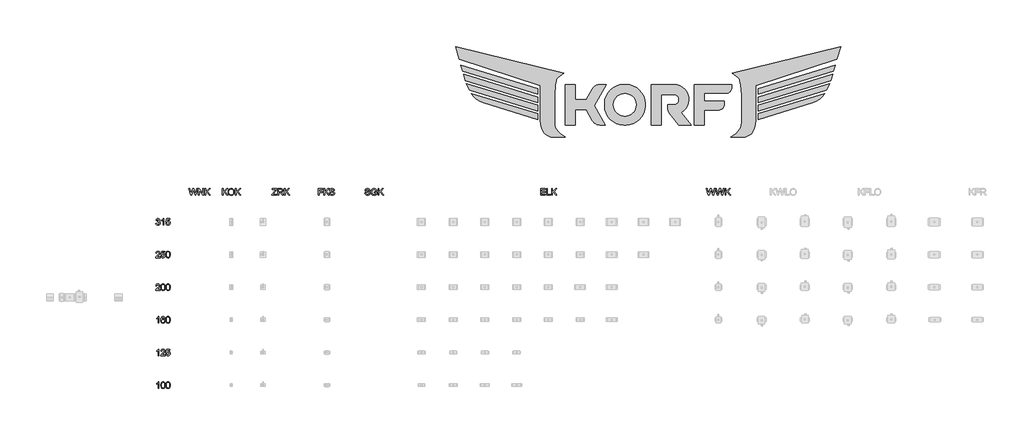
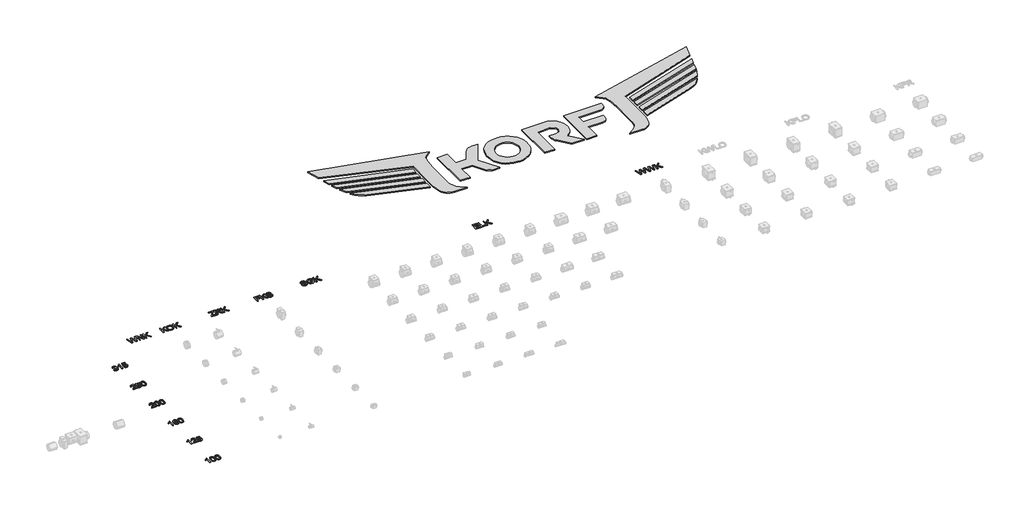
# One storey, part 8 of 9: 14 proxies.
"""IFC4 building model written with IfcOpenShell, lengths in millimetres."""

from ifc_helpers import new_model, si_unit, origin, origin_with_axes, place, context, project, spatial, polyline, outline, extrude, transform, mapped, element, save
from components import entourage_f634e647

model = new_model("IFC4")

# Units and contexts
model_context = context("Model", 3, world=origin())
ifc_project = project(units=[si_unit("LENGTHUNIT", "METRE", prefix="MILLI")], contexts=[model_context])

# Site, building, storey
site = spatial("IfcSite", under=ifc_project)
building = spatial("IfcBuilding", under=site)
storey = spatial("IfcBuildingStorey", under=building, Name="KORF_Уровень 1", Elevation=0.0)

# Proxies
placement = place(None, origin())
element("IfcBuildingElementProxy", 1, Name="Текст модели 1", ObjectType="Текст модели 1", at=placement, inside=storey, context=model_context, shape_type="SweptSolid", body=[
    extrude(outline(polyline([(-9869.6329578, 9570.718814), (-9951.8177955, 9872.0877444), (-9912.9694568, 9872.0877444), (-9865.2919502, 9674.0200782), (-9850.5766704, 9612.8780906), (-9834.831321, 9666.9567439), (-9775.087285, 9872.0877444), (-9719.0956454, 9872.0877444), (-9675.6855699, 9723.389842), (-9657.0891351, 9668.2075427), (-9643.3855307, 9612.8780906), (-9629.1117093, 9672.2542447), (-9580.9927444, 9872.0877444), (-9542.1444057, 9872.0877444), (-9624.4028198, 9570.718814), (-9664.6491101, 9570.718814), (-9736.9011339, 9803.2202349), (-9746.9811006, 9835.6674269), (-9758.311866, 9796.598359), (-9824.1627432, 9570.718814), (-9869.6329578, 9570.718814)])), origin_with_axes(), (0.0, 0.0, 1.0), 30.0),
    extrude(outline(polyline([(-9504.4732894, 9570.718814), (-9504.4732894, 9872.0877444), (-9464.1534227, 9872.0877444), (-9306.6999288, 9633.3323296), (-9306.6999288, 9872.0877444), (-9269.0288125, 9872.0877444), (-9269.0288125, 9570.718814), (-9309.3486791, 9570.718814), (-9466.8021731, 9809.5478053), (-9466.8021731, 9570.718814), (-9504.4732894, 9570.718814)])), origin_with_axes(), (0.0, 0.0, 1.0), 30.0),
    extrude(outline(polyline([(-9203.1043589, 9570.718814), (-9203.1043589, 9872.0877444), (-9165.4332426, 9872.0877444), (-9165.4332426, 9724.5670644), (-9010.9228046, 9872.0877444), (-8958.2421029, 9872.0877444), (-9087.9572944, 9748.1850885), (-8953.5332134, 9570.718814), (-8999.5920392, 9570.718814), (-9114.6655273, 9722.7276544), (-9165.4332426, 9674.3143838), (-9165.4332426, 9570.718814), (-9203.1043589, 9570.718814)])), origin_with_axes(), (0.0, 0.0, 1.0), 30.0),
])
element("IfcBuildingElementProxy", 2, Name="Текст модели 1", ObjectType="Текст модели 1", at=placement, inside=storey, context=model_context, shape_type="SweptSolid", body=[
    extrude(outline(polyline([(-8395.6509541, 9570.718814), (-8395.6509541, 9872.0877444), (-8357.9798378, 9872.0877444), (-8357.9798378, 9724.5670644), (-8203.4693998, 9872.0877444), (-8150.7886981, 9872.0877444), (-8280.5038896, 9748.1850885), (-8146.0798086, 9570.718814), (-8192.1386343, 9570.718814), (-8307.2121224, 9722.7276544), (-8357.9798378, 9674.3143838), (-8357.9798378, 9570.718814), (-8395.6509541, 9570.718814)])), origin_with_axes(), (0.0, 0.0, 1.0), 30.0),
    extrude(outline(polyline([(-8131.9531399, 9717.4301537), (-8129.4423453, 9752.7790149), (-8121.9099615, 9784.0719771), (-8109.3559884, 9811.3090403), (-8091.7804261, 9834.4902045), (-8070.2363367, 9852.9992674), (-8045.7767826, 9866.2200266), (-8018.4017636, 9874.1524821), (-7988.1112798, 9876.796634), (-7948.5823594, 9871.830227), (-7913.1369292, 9856.9310062), (-7883.7063696, 9833.1474352), (-7862.2220611, 9801.5279778), (-7849.0886738, 9763.5993441), (-7844.7108781, 9720.8882444), (-7849.3186001, 9677.6069277), (-7863.1417661, 9639.1448651), (-7885.4170209, 9607.4702253), (-7915.3810094, 9584.551177), (-7950.522937, 9570.6452376), (-7988.332009, 9566.0099244), (-8028.4679347, 9571.1326812), (-8064.1157, 9586.5009516), (-8093.4726832, 9610.725981), (-8114.7362626, 9642.4190148), (-8127.6489206, 9678.8853176), (-8131.9531399, 9717.4301537)]), holes=[polyline([(-8094.2820236, 9717.0622717), (-8092.3989277, 9692.0876827), (-8086.7496398, 9669.918194), (-8077.33416, 9650.5538055), (-8064.1524882, 9633.9945172), (-8048.1289281, 9620.7323712), (-8030.187783, 9611.2594099), (-8010.3290531, 9605.575633), (-7988.5527382, 9603.6810408), (-7966.4039428, 9605.5940271), (-7946.3106881, 9611.3329863), (-7928.272974, 9620.8979181), (-7912.2908006, 9634.2888228), (-7899.2056979, 9651.197599), (-7889.859196, 9671.3161456), (-7884.2512948, 9694.6444626), (-7882.3819944, 9721.18255), (-7885.5825678, 9754.5310529), (-7895.1842878, 9783.3546072), (-7910.9388343, 9806.926646), (-7932.5978867, 9824.5206025), (-7958.7267055, 9835.4742889), (-7987.8905506, 9839.1255177), (-8008.9104081, 9837.3665819), (-8028.4127524, 9832.0897745), (-8046.3975834, 9823.2950956), (-8062.8649012, 9810.982545), (-8076.6098923, 9794.5589132), (-8086.427743, 9773.4309904), (-8092.3184535, 9747.5987765), (-8094.2820236, 9717.0622717)])]), origin_with_axes(), (0.0, 0.0, 1.0), 30.0),
    extrude(outline(polyline([(-7792.9130932, 9570.718814), (-7792.9130932, 9872.0877444), (-7755.2419769, 9872.0877444), (-7755.2419769, 9724.5670644), (-7600.7315389, 9872.0877444), (-7548.0508372, 9872.0877444), (-7677.7660287, 9748.1850885), (-7543.3419477, 9570.718814), (-7589.4007734, 9570.718814), (-7704.4742615, 9722.7276544), (-7755.2419769, 9674.3143838), (-7755.2419769, 9570.718814), (-7792.9130932, 9570.718814)])), origin_with_axes(), (0.0, 0.0, 1.0), 30.0),
])
element("IfcBuildingElementProxy", 3, Name="Текст модели 1", ObjectType="Текст модели 1", at=placement, inside=storey, context=model_context, shape_type="SweptSolid", body=[
    extrude(outline(polyline([(-6112.1795272, 9570.718814), (-6112.1795272, 9609.7878819), (-5958.0369712, 9798.5113454), (-5928.7535644, 9834.4166281), (-6093.3439691, 9834.4166281), (-6093.3439691, 9872.0877444), (-5881.4439398, 9872.0877444), (-5881.4439398, 9834.4166281), (-6050.1546228, 9627.887676), (-6066.047125, 9608.3899303), (-5876.7350503, 9608.3899303), (-5876.7350503, 9570.718814), (-6112.1795272, 9570.718814)])), origin_with_axes(), (0.0, 0.0, 1.0), 30.0),
    extrude(outline(polyline([(-5834.3550445, 9570.718814), (-5834.3550445, 9872.0877444), (-5704.4927002, 9872.0877444), (-5669.5898959, 9870.0551964), (-5644.1968412, 9863.9575523), (-5625.6371945, 9852.7003633), (-5611.2346144, 9835.1891803), (-5601.9915793, 9813.4749456), (-5598.9105675, 9789.6086011), (-5604.0149302, 9759.9205241), (-5619.3280183, 9735.3092186), (-5630.9277974, 9725.2798357), (-5645.3096842, 9717.2646068), (-5682.4197805, 9707.2766106), (-5661.0090483, 9691.1633792), (-5630.4748427, 9652.3886169), (-5580.2221622, 9570.718814), (-5624.0001196, 9570.718814), (-5663.2163403, 9633.1851768), (-5691.5432539, 9674.535113), (-5711.4456699, 9694.069647), (-5729.361523, 9701.2433459), (-5751.2137136, 9702.5677211), (-5796.6839282, 9702.5677211), (-5796.6839282, 9570.718814), (-5834.3550445, 9570.718814)]), holes=[polyline([(-5796.6839282, 9740.2388374), (-5712.3653749, 9740.2388374), (-5688.1495425, 9741.5724096), (-5669.3599696, 9745.5731263), (-5655.2149069, 9752.5077019), (-5644.9326051, 9762.6428509), (-5638.6694142, 9774.9025184), (-5636.5816839, 9788.2106495), (-5640.5640065, 9806.5863552), (-5652.5109742, 9821.3936055), (-5673.0663807, 9831.1608725), (-5702.8740194, 9834.4166281), (-5796.6839282, 9834.4166281), (-5796.6839282, 9740.2388374)])]), origin_with_axes(), (0.0, 0.0, 1.0), 30.0),
    extrude(outline(polyline([(-5532.986114, 9570.718814), (-5532.986114, 9872.0877444), (-5495.3149977, 9872.0877444), (-5495.3149977, 9724.5670644), (-5340.8045597, 9872.0877444), (-5288.123858, 9872.0877444), (-5417.8390495, 9748.1850885), (-5283.4149685, 9570.718814), (-5329.4737943, 9570.718814), (-5444.5472824, 9722.7276544), (-5495.3149977, 9674.3143838), (-5495.3149977, 9570.718814), (-5532.986114, 9570.718814)])), origin_with_axes(), (0.0, 0.0, 1.0), 30.0),
])
element("IfcBuildingElementProxy", 4, Name="Текст модели 1", ObjectType="Текст модели 1", at=placement, inside=storey, context=model_context, shape_type="SweptSolid", body=[
    extrude(outline(polyline([(-3953.1771276, 9570.718814), (-3953.1771276, 9872.0877444), (-3750.6948775, 9872.0877444), (-3750.6948775, 9834.4166281), (-3915.5060113, 9834.4166281), (-3915.5060113, 9744.9477269), (-3774.2393252, 9744.9477269), (-3774.2393252, 9707.2766106), (-3915.5060113, 9707.2766106), (-3915.5060113, 9570.718814), (-3953.1771276, 9570.718814)])), origin_with_axes(), (0.0, 0.0, 1.0), 30.0),
    extrude(outline(polyline([(-3698.8970926, 9570.718814), (-3698.8970926, 9872.0877444), (-3661.2259763, 9872.0877444), (-3661.2259763, 9724.5670644), (-3506.7155383, 9872.0877444), (-3454.0348366, 9872.0877444), (-3583.7500281, 9748.1850885), (-3449.325947, 9570.718814), (-3495.3847728, 9570.718814), (-3610.4582609, 9722.7276544), (-3661.2259763, 9674.3143838), (-3661.2259763, 9570.718814), (-3698.8970926, 9570.718814)])), origin_with_axes(), (0.0, 0.0, 1.0), 30.0),
    extrude(outline(polyline([(-3435.1992784, 9674.3143838), (-3397.5281621, 9674.3143838), (-3393.2055487, 9653.4094895), (-3385.3880563, 9636.6064793), (-3373.1927681, 9623.270757), (-3355.7367675, 9612.767726), (-3334.3996118, 9605.9527121), (-3310.5608585, 9603.6810408), (-3289.5731906, 9605.4008891), (-3271.197485, 9610.5604341), (-3256.3074612, 9618.7274144), (-3245.7768391, 9629.4695686), (-3239.5136481, 9641.8028125), (-3237.4259178, 9654.7430617), (-3238.9894163, 9667.3522171), (-3243.6799117, 9678.2507212), (-3253.2080554, 9687.5489386), (-3269.2844986, 9695.357234), (-3324.1357041, 9709.74142), (-3360.1421544, 9719.2603666), (-3383.1807643, 9728.3194607), (-3401.933549, 9740.9929955), (-3415.2232861, 9756.3520688), (-3423.141946, 9774.0655868), (-3425.7814994, 9793.8024559), (-3422.5165466, 9815.8661785), (-3412.7216885, 9836.4399791), (-3396.6544424, 9853.8775857), (-3374.5723256, 9866.5327263), (-3348.0664279, 9874.2306571), (-3318.7278388, 9876.796634), (-3286.9428344, 9874.1110954), (-3259.1309555, 9866.0544797), (-3236.2854836, 9852.7923338), (-3219.3997001, 9834.4902045), (-3208.7127281, 9812.2885261), (-3204.4636911, 9787.3277327), (-3242.1348074, 9787.3277327), (-3249.0509889, 9809.8053227), (-3263.4719631, 9826.0289186), (-3286.0047353, 9835.8513679), (-3317.2563108, 9839.1255177), (-3349.2436503, 9835.8881561), (-3371.1878113, 9826.1760714), (-3383.8797401, 9811.8838559), (-3388.110383, 9794.9061018), (-3385.1121448, 9780.4299453), (-3376.11743, 9768.7864802), (-3354.8538507, 9758.3754197), (-3314.6075604, 9747.7436301), (-3273.0736832, 9737.6452693), (-3247.9473429, 9728.8344955), (-3226.4722314, 9715.1676794), (-3211.4902372, 9698.3002899), (-3202.6886604, 9678.4162681), (-3199.7548015, 9655.6995549), (-3203.1301188, 9632.4770039), (-3213.2560707, 9610.6340105), (-3229.71879, 9591.8352405), (-3252.1044094, 9577.7453601), (-3279.0241744, 9568.9437834), (-3309.0893305, 9566.0099244), (-3345.9970917, 9569.1737096), (-3376.3749474, 9578.6650651), (-3400.5723856, 9594.5207791), (-3418.9388942, 9616.7776398), (-3430.7295122, 9643.8905428), (-3435.1992784, 9674.3143838)])), origin_with_axes(), (0.0, 0.0, 1.0), 30.0),
])
element("IfcBuildingElementProxy", 5, Name="Текст модели 1", ObjectType="Текст модели 1", at=placement, inside=storey, context=model_context, shape_type="SweptSolid", body=[
    extrude(outline(polyline([(-1799.0418903, 9674.3143838), (-1761.370774, 9674.3143838), (-1757.0481606, 9653.4094895), (-1749.2306682, 9636.6064793), (-1737.0353801, 9623.270757), (-1719.5793794, 9612.767726), (-1698.2422237, 9605.9527121), (-1674.4034704, 9603.6810408), (-1653.4158026, 9605.4008891), (-1635.0400969, 9610.5604341), (-1620.1500731, 9618.7274144), (-1609.619451, 9629.4695686), (-1603.3562601, 9641.8028125), (-1601.2685297, 9654.7430617), (-1602.8320282, 9667.3522171), (-1607.5225237, 9678.2507212), (-1617.0506673, 9687.5489386), (-1633.1271105, 9695.357234), (-1687.978316, 9709.74142), (-1723.9847663, 9719.2603666), (-1747.0233762, 9728.3194607), (-1765.7761609, 9740.9929955), (-1779.065898, 9756.3520688), (-1786.9845579, 9774.0655868), (-1789.6241113, 9793.8024559), (-1786.3591586, 9815.8661785), (-1776.5643004, 9836.4399791), (-1760.4970543, 9853.8775857), (-1738.4149375, 9866.5327263), (-1711.9090398, 9874.2306571), (-1682.5704507, 9876.796634), (-1650.7854463, 9874.1110954), (-1622.9735674, 9866.0544797), (-1600.1280955, 9852.7923338), (-1583.242312, 9834.4902045), (-1572.55534, 9812.2885261), (-1568.306303, 9787.3277327), (-1605.9774193, 9787.3277327), (-1612.8936008, 9809.8053227), (-1627.314575, 9826.0289186), (-1649.8473472, 9835.8513679), (-1681.0989227, 9839.1255177), (-1713.0862622, 9835.8881561), (-1735.0304232, 9826.1760714), (-1747.722352, 9811.8838559), (-1751.952995, 9794.9061018), (-1748.9547567, 9780.4299453), (-1739.9600419, 9768.7864802), (-1718.6964626, 9758.3754197), (-1678.4501723, 9747.7436301), (-1636.9162951, 9737.6452693), (-1611.7899548, 9728.8344955), (-1590.3148433, 9715.1676794), (-1575.3328491, 9698.3002899), (-1566.5312723, 9678.4162681), (-1563.5974134, 9655.6995549), (-1566.9727307, 9632.4770039), (-1577.0986827, 9610.6340105), (-1593.5614019, 9591.8352405), (-1615.9470213, 9577.7453601), (-1642.8667863, 9568.9437834), (-1672.9319424, 9566.0099244), (-1709.8397036, 9569.1737096), (-1740.2175593, 9578.6650651), (-1764.4149975, 9594.5207791), (-1782.7815062, 9616.7776398), (-1794.5721241, 9643.8905428), (-1799.0418903, 9674.3143838)])), origin_with_axes(), (0.0, 0.0, 1.0), 30.0),
    extrude(outline(polyline([(-1365.8240528, 9688.4410524), (-1365.8240528, 9726.1121688), (-1243.3929248, 9726.1121688), (-1243.3929248, 9613.4667018), (-1273.1453812, 9592.7733396), (-1303.8359366, 9577.9293011), (-1335.3910148, 9568.9897686), (-1367.7370392, 9566.0099244), (-1409.9974834, 9570.7464051), (-1448.1928315, 9584.9558472), (-1479.9226536, 9608.1416099), (-1502.7865196, 9639.8070527), (-1516.6096856, 9677.7908687), (-1521.2174076, 9719.9317512), (-1516.6280797, 9762.3761364), (-1502.860096, 9801.8590716), (-1480.4836737, 9834.9776482), (-1450.0690297, 9858.3289578), (-1413.0233128, 9872.1797149), (-1370.7536716, 9876.796634), (-1339.7228253, 9874.1202925), (-1311.8189759, 9866.0912679), (-1288.3205135, 9853.2889745), (-1270.5058279, 9836.2928263), (-1257.3264554, 9814.2842859), (-1247.7339324, 9786.444816), (-1282.4619927, 9776.6591549), (-1290.2151058, 9796.5155856), (-1299.6420819, 9811.4975798), (-1312.1132815, 9822.7915571), (-1328.9990651, 9831.5839368), (-1349.1314073, 9837.2401224), (-1371.3422827, 9839.1255177), (-1397.3423428, 9837.0929696), (-1419.5716123, 9830.9953256), (-1437.947318, 9821.5959406), (-1452.3866863, 9809.6581699), (-1471.7740674, 9780.6322804), (-1480.6032353, 9752.1950022), (-1483.5462913, 9721.4768556), (-1480.0054271, 9685.4520112), (-1469.3828345, 9655.8099195), (-1452.0004102, 9632.7621125), (-1428.180051, 9616.5201224), (-1400.3037928, 9606.8908112), (-1370.7536716, 9603.6810408), (-1344.661641, 9606.0998649), (-1319.213404, 9613.3563372), (-1297.1128932, 9623.3535304), (-1281.0640411, 9633.9945172), (-1281.0640411, 9688.4410524), (-1365.8240528, 9688.4410524)])), origin_with_axes(), (0.0, 0.0, 1.0), 30.0),
    extrude(outline(polyline([(-1182.1773608, 9570.718814), (-1182.1773608, 9872.0877444), (-1144.5062445, 9872.0877444), (-1144.5062445, 9724.5670644), (-989.9958065, 9872.0877444), (-937.3151048, 9872.0877444), (-1067.0302963, 9748.1850885), (-932.6062153, 9570.718814), (-978.6650411, 9570.718814), (-1093.7385292, 9722.7276544), (-1144.5062445, 9674.3143838), (-1144.5062445, 9570.718814), (-1182.1773608, 9570.718814)])), origin_with_axes(), (0.0, 0.0, 1.0), 30.0),
])
element("IfcBuildingElementProxy", 6, Name="Текст модели 1", ObjectType="Текст модели 1", at=placement, inside=storey, context=model_context, shape_type="SweptSolid", body=[
    extrude(outline(polyline([(-11474.9244983, 8265.4424699), (-11437.253382, 8270.1513595), (-11428.8196873, 8246.4781531), (-11416.4680493, 8230.4936804), (-11399.5914628, 8221.388601), (-11377.5829224, 8218.3535746), (-11351.7576063, 8222.5290352), (-11331.8184022, 8235.0554171), (-11319.0712911, 8253.7438225), (-11314.822254, 8276.4053534), (-11319.0345029, 8297.9172531), (-11331.6712494, 8315.3640567), (-11350.8011131, 8326.9247484), (-11374.4927136, 8330.7783123), (-11400.9066409, 8326.6580339), (-11396.7127861, 8364.3291502), (-11390.6795214, 8363.8876918), (-11368.109961, 8366.5916245), (-11347.9316336, 8374.7034225), (-11333.6946004, 8388.4254209), (-11328.9489226, 8407.9599549), (-11332.3886193, 8424.2295361), (-11342.7077092, 8437.4273027), (-11358.4530586, 8446.1736971), (-11378.1715336, 8449.0891619), (-11397.9267967, 8446.146106), (-11414.0768163, 8437.3169381), (-11425.8674343, 8422.6016583), (-11432.5444925, 8402.0002665), (-11470.2156088, 8406.7091561), (-11459.1239666, 8440.5359055), (-11439.3870976, 8465.7910045), (-11412.3845591, 8481.5179598), (-11379.4959088, 8486.7602782), (-11355.8135053, 8484.1759072), (-11334.0624824, 8476.4227942), (-11315.7235649, 8464.1907178), (-11302.277478, 8448.1694569), (-11294.0277242, 8429.7109778), (-11291.2778063, 8410.1672468), (-11293.8897685, 8391.9570881), (-11301.725655, 8375.4391865), (-11314.6751012, 8361.3677002), (-11332.6277426, 8350.4967872), (-11309.0465067, 8340.9686435), (-11291.5721119, 8324.7450476), (-11280.7563813, 8302.708916), (-11277.1511377, 8275.7431658), (-11278.9537595, 8256.6316961), (-11284.3616248, 8239.0285427), (-11293.3747337, 8222.9337054), (-11305.9930861, 8208.3471843), (-11321.365955, 8196.2438666), (-11338.6426132, 8187.5986398), (-11357.8230607, 8182.4115036), (-11378.9072976, 8180.6824582), (-11397.9635849, 8182.1585848), (-11415.3276151, 8186.5869643), (-11430.9993881, 8193.9675968), (-11444.9789039, 8204.3004823), (-11456.700544, 8216.9786156), (-11465.5986897, 8231.3949913), (-11471.6733412, 8247.5496094), (-11474.9244983, 8265.4424699)])), origin_with_axes(), (0.0, 0.0, 1.0), 30.0),
    extrude(outline(polyline([(-11102.9222248, 8185.3913478), (-11140.5933411, 8185.3913478), (-11140.5933411, 8420.2472135), (-11176.2778946, 8394.8265676), (-11215.9355737, 8375.8070685), (-11215.9355737, 8411.4180456), (-11186.3486642, 8427.5128829), (-11160.7164862, 8446.6611408), (-11140.5105677, 8467.0234092), (-11127.2024365, 8486.7602782), (-11102.9222248, 8486.7602782), (-11102.9222248, 8185.3913478)])), origin_with_axes(), (0.0, 0.0, 1.0), 30.0),
    extrude(outline(polyline([(-11013.4533236, 8265.4424699), (-10975.7822073, 8270.1513595), (-10968.8660258, 8247.5358138), (-10956.7994963, 8231.339809), (-10939.6378012, 8221.6001332), (-10917.4361228, 8218.3535746), (-10890.4335844, 8222.869326), (-10870.2000746, 8236.4165805), (-10857.5633281, 8257.4318395), (-10853.3510793, 8284.3516045), (-10857.2966137, 8309.698674), (-10869.1332169, 8329.0860551), (-10888.9528593, 8341.3917078), (-10916.8475116, 8345.4935921), (-10935.1220497, 8343.8565172), (-10949.920103, 8338.9452926), (-10971.0733177, 8321.9491444), (-11008.744434, 8326.6580339), (-10975.7822073, 8482.0513887), (-10829.8066316, 8482.0513887), (-10829.8066316, 8444.3802724), (-10945.3215781, 8444.3802724), (-10961.4348094, 8361.3860943), (-10934.5242415, 8377.7200549), (-10906.3260866, 8383.1647084), (-10887.9802713, 8381.4770497), (-10871.1289767, 8376.4140738), (-10855.7722026, 8367.9757805), (-10841.9099492, 8356.1621699), (-10830.4343302, 8341.6952105), (-10822.2374595, 8325.2968705), (-10817.3193371, 8306.9671501), (-10815.679963, 8286.7060493), (-10821.584469, 8249.0349329), (-10828.9651015, 8232.2411199), (-10839.297987, 8216.8084702), (-10854.9513659, 8201.00334), (-10873.216707, 8189.7139612), (-10894.0940102, 8182.940334), (-10917.5832756, 8180.6824582), (-10954.5830073, 8186.4857967), (-10970.2616781, 8193.7399698), (-10984.0595522, 8203.8958121), (-10995.5397697, 8216.447486), (-11004.2654707, 8230.8891535), (-11013.4533236, 8265.4424699)])), origin_with_axes(), (0.0, 0.0, 1.0), 30.0),
])
element("IfcBuildingElementProxy", 7, Name="Текст модели 1", ObjectType="Текст модели 1", at=placement, inside=storey, context=model_context, shape_type="SweptSolid", body=[
    extrude(outline(polyline([(-11281.8600272, 6709.0816566), (-11281.8600272, 6671.4105403), (-11479.6333879, 6671.4105403), (-11475.5866859, 6697.3830091), (-11466.2976655, 6717.6808982), (-11452.7044258, 6737.371782), (-11433.0411332, 6757.9823708), (-11405.541954, 6781.0393748), (-11364.8909936, 6817.1469927), (-11340.5004173, 6843.8000432), (-11328.3051291, 6865.4315045), (-11324.2400331, 6886.4743547), (-11328.0752029, 6905.337504), (-11339.5807123, 6921.018474), (-11357.2666392, 6931.5858843), (-11379.6430616, 6935.1083544), (-11403.141524, 6931.6686578), (-11421.397668, 6921.3495678), (-11433.1790889, 6904.9604249), (-11437.253382, 6883.3105695), (-11474.9244983, 6888.019459), (-11465.7918278, 6924.4581707), (-11457.2454692, 6938.994108), (-11446.0457617, 6951.074433), (-11432.4502227, 6960.570387), (-11416.7163696, 6967.3532113), (-11378.8337212, 6972.7794707), (-11358.6438974, 6971.2711546), (-11340.6751612, 6966.746206), (-11324.9275126, 6959.2046251), (-11311.4009515, 6948.6464118), (-11300.5369363, 6935.8533155), (-11292.7769255, 6921.6070852), (-11288.120919, 6905.9077211), (-11286.5689168, 6888.755223), (-11288.2427799, 6870.7382023), (-11293.2643691, 6853.0338813), (-11302.1763104, 6835.0260576), (-11315.5212298, 6816.098529), (-11336.7940062, 6793.5013774), (-11369.4895185, 6764.4846851), (-11412.8260175, 6728.2483085), (-11429.8221657, 6709.0816566), (-11281.8600272, 6709.0816566)])), origin_with_axes(), (0.0, 0.0, 1.0), 30.0),
    extrude(outline(polyline([(-11244.1889109, 6751.4616624), (-11206.5177946, 6756.170552), (-11199.6016131, 6733.5550063), (-11187.5350837, 6717.3590015), (-11170.3733886, 6707.6193257), (-11148.1717102, 6704.3727671), (-11121.1691718, 6708.8885185), (-11100.935662, 6722.435773), (-11088.2989155, 6743.451032), (-11084.0866666, 6770.370797), (-11088.032201, 6795.7178665), (-11099.8688042, 6815.1052476), (-11119.6884467, 6827.4109003), (-11147.583099, 6831.5127846), (-11165.8576371, 6829.8757097), (-11180.6556904, 6824.9644851), (-11201.8089051, 6807.9683369), (-11239.4800214, 6812.6772264), (-11206.5177946, 6968.0705812), (-11060.5422189, 6968.0705812), (-11060.5422189, 6930.3994649), (-11176.0571654, 6930.3994649), (-11192.1703968, 6847.4052868), (-11165.2598289, 6863.7392474), (-11137.0616739, 6869.1839009), (-11118.7158587, 6867.4962422), (-11101.8645641, 6862.4332663), (-11086.50779, 6853.994973), (-11072.6455366, 6842.1813624), (-11061.1699176, 6827.714403), (-11052.9730469, 6811.316063), (-11048.0549245, 6792.9863426), (-11046.4155503, 6772.7252418), (-11052.3200564, 6735.0541254), (-11059.7006889, 6718.2603124), (-11070.0335744, 6702.8276627), (-11085.6869533, 6687.0225325), (-11103.9522944, 6675.7331537), (-11124.8295976, 6668.9595265), (-11148.318863, 6666.7016507), (-11185.3185947, 6672.5049892), (-11200.9972654, 6679.7591623), (-11214.7951395, 6689.9150046), (-11226.275357, 6702.4666785), (-11235.0010581, 6716.908346), (-11244.1889109, 6751.4616624)])), origin_with_axes(), (0.0, 0.0, 1.0), 30.0),
    extrude(outline(polyline([(-11013.4533236, 6819.6669843), (-11010.6850116, 6867.905511), (-11002.3800755, 6906.3767706), (-10988.6212889, 6935.6693745), (-10969.4914251, 6956.3719337), (-10944.8525285, 6968.6775865), (-10914.5666433, 6972.7794707), (-10891.3532894, 6970.3514496), (-10870.5679566, 6963.0673861), (-10853.1855324, 6951.2123888), (-10840.1809038, 6935.0715662), (-10830.3584546, 6914.7828742), (-10822.5225681, 6890.4842684), (-10817.3906142, 6859.6281661), (-10815.679963, 6819.6669843), (-10818.4206838, 6771.7043692), (-10826.6428464, 6733.3250801), (-10840.3188596, 6704.0048851), (-10859.4211322, 6683.2195523), (-10884.1152111, 6670.8311261), (-10914.5666433, 6666.7016507), (-10935.3151878, 6668.4950755), (-10953.7092875, 6673.8753497), (-10969.7489425, 6682.8424733), (-10983.4341528, 6695.3964464), (-10996.56754, 6718.0901669), (-11005.9485309, 6746.3664968), (-11011.5771254, 6780.2254359), (-11013.4533236, 6819.6669843)]), holes=[polyline([(-10975.7822073, 6819.7405607), (-10971.3676233, 6760.4839684), (-10965.8493934, 6740.2159697), (-10958.1238715, 6726.1881694), (-10938.4053966, 6709.8266176), (-10914.5666433, 6704.3727671), (-10890.72789, 6709.8450117), (-10871.009415, 6726.2617458), (-10863.2838931, 6740.3125387), (-10857.7656632, 6760.5759389), (-10853.3510793, 6819.7405607), (-10857.6185104, 6877.6635809), (-10862.9527993, 6897.8649009), (-10870.4208038, 6912.2260943), (-10890.1024906, 6929.3877894), (-10915.0081017, 6935.1083544), (-10938.5893375, 6930.0683711), (-10957.5352603, 6914.9484211), (-10965.5182996, 6899.3134363), (-10971.2204705, 6878.233798), (-10975.7822073, 6819.7405607)])]), origin_with_axes(), (0.0, 0.0, 1.0), 30.0),
])
element("IfcBuildingElementProxy", 8, Name="Текст модели 1", ObjectType="Текст модели 1", at=placement, inside=storey, context=model_context, shape_type="SweptSolid", body=[
    extrude(outline(polyline([(-11281.8600272, 5195.1008491), (-11281.8600272, 5157.4297328), (-11479.6333879, 5157.4297328), (-11475.5866859, 5183.4022016), (-11466.2976655, 5203.7000907), (-11452.7044258, 5223.3909745), (-11433.0411332, 5244.0015633), (-11405.541954, 5267.0585673), (-11364.8909936, 5303.1661852), (-11340.5004173, 5329.8192357), (-11328.3051291, 5351.450697), (-11324.2400331, 5372.4935472), (-11328.0752029, 5391.3566965), (-11339.5807123, 5407.0376665), (-11357.2666392, 5417.6050768), (-11379.6430616, 5421.1275469), (-11403.141524, 5417.6878503), (-11421.397668, 5407.3687603), (-11433.1790889, 5390.9796174), (-11437.253382, 5369.329762), (-11474.9244983, 5374.0386515), (-11465.7918278, 5410.4773632), (-11457.2454692, 5425.0133005), (-11446.0457617, 5437.0936255), (-11432.4502227, 5446.5895795), (-11416.7163696, 5453.3724038), (-11378.8337212, 5458.7986632), (-11358.6438974, 5457.2903471), (-11340.6751612, 5452.7653985), (-11324.9275126, 5445.2238176), (-11311.4009515, 5434.6656043), (-11300.5369363, 5421.872508), (-11292.7769255, 5407.6262777), (-11288.120919, 5391.9269136), (-11286.5689168, 5374.7744155), (-11288.2427799, 5356.7573948), (-11293.2643691, 5339.0530738), (-11302.1763104, 5321.0452501), (-11315.5212298, 5302.1177215), (-11336.7940062, 5279.5205699), (-11369.4895185, 5250.5038776), (-11412.8260175, 5214.267501), (-11429.8221657, 5195.1008491), (-11281.8600272, 5195.1008491)])), origin_with_axes(), (0.0, 0.0, 1.0), 30.0),
    extrude(outline(polyline([(-11244.1889109, 5305.6861768), (-11241.4205989, 5353.9247035), (-11233.1156629, 5392.3959631), (-11219.3568763, 5421.688567), (-11200.2270125, 5442.3911262), (-11175.5881159, 5454.696779), (-11145.3022306, 5458.7986632), (-11122.0888767, 5456.3706421), (-11101.303544, 5449.0865786), (-11083.9211197, 5437.2315813), (-11070.9164912, 5421.0907587), (-11061.0940419, 5400.8020667), (-11053.2581554, 5376.5034609), (-11048.1262016, 5345.6473586), (-11046.4155503, 5305.6861768), (-11049.1562712, 5257.7235617), (-11057.3784338, 5219.3442726), (-11071.054447, 5190.0240776), (-11090.1567196, 5169.2387448), (-11114.8507985, 5156.8503186), (-11145.3022306, 5152.7208432), (-11166.0507752, 5154.514268), (-11184.4448749, 5159.8945422), (-11200.4845299, 5168.8616658), (-11214.1697401, 5181.4156389), (-11227.3031274, 5204.1093594), (-11236.6841182, 5232.3856893), (-11242.3127128, 5266.2446284), (-11244.1889109, 5305.6861768)]), holes=[polyline([(-11206.5177946, 5305.7597532), (-11202.1032107, 5246.5031609), (-11196.5849808, 5226.2351622), (-11188.8594589, 5212.2073619), (-11169.1409839, 5195.8458101), (-11145.3022306, 5190.3919596), (-11121.4634774, 5195.8642042), (-11101.7450024, 5212.2809383), (-11094.0194805, 5226.3317312), (-11088.5012506, 5246.5951314), (-11084.0866666, 5305.7597532), (-11088.3540978, 5363.6827734), (-11093.6883867, 5383.8840934), (-11101.1563912, 5398.2452868), (-11120.838078, 5415.4069819), (-11145.743689, 5421.1275469), (-11169.3249249, 5416.0875636), (-11188.2708477, 5400.9676136), (-11196.253887, 5385.3326288), (-11201.9560579, 5364.2529905), (-11206.5177946, 5305.7597532)])]), origin_with_axes(), (0.0, 0.0, 1.0), 30.0),
    extrude(outline(polyline([(-11013.4533236, 5305.6861768), (-11010.6850116, 5353.9247035), (-11002.3800755, 5392.3959631), (-10988.6212889, 5421.688567), (-10969.4914251, 5442.3911262), (-10944.8525285, 5454.696779), (-10914.5666433, 5458.7986632), (-10891.3532894, 5456.3706421), (-10870.5679566, 5449.0865786), (-10853.1855324, 5437.2315813), (-10840.1809038, 5421.0907587), (-10830.3584546, 5400.8020667), (-10822.5225681, 5376.5034609), (-10817.3906142, 5345.6473586), (-10815.679963, 5305.6861768), (-10818.4206838, 5257.7235617), (-10826.6428464, 5219.3442726), (-10840.3188596, 5190.0240776), (-10859.4211322, 5169.2387448), (-10884.1152111, 5156.8503186), (-10914.5666433, 5152.7208432), (-10935.3151878, 5154.514268), (-10953.7092875, 5159.8945422), (-10969.7489425, 5168.8616658), (-10983.4341528, 5181.4156389), (-10996.56754, 5204.1093594), (-11005.9485309, 5232.3856893), (-11011.5771254, 5266.2446284), (-11013.4533236, 5305.6861768)]), holes=[polyline([(-10975.7822073, 5305.7597532), (-10971.3676233, 5246.5031609), (-10965.8493934, 5226.2351622), (-10958.1238715, 5212.2073619), (-10938.4053966, 5195.8458101), (-10914.5666433, 5190.3919596), (-10890.72789, 5195.8642042), (-10871.009415, 5212.2809383), (-10863.2838931, 5226.3317312), (-10857.7656632, 5246.5951314), (-10853.3510793, 5305.7597532), (-10857.6185104, 5363.6827734), (-10862.9527993, 5383.8840934), (-10870.4208038, 5398.2452868), (-10890.1024906, 5415.4069819), (-10915.0081017, 5421.1275469), (-10938.5893375, 5416.0875636), (-10957.5352603, 5400.9676136), (-10965.5182996, 5385.3326288), (-10971.2204705, 5364.2529905), (-10975.7822073, 5305.7597532)])]), origin_with_axes(), (0.0, 0.0, 1.0), 30.0),
])
element("IfcBuildingElementProxy", 9, Name="Текст модели 1", ObjectType="Текст модели 1", at=placement, inside=storey, context=model_context, shape_type="SweptSolid", body=[
    extrude(outline(polyline([(-11333.6578122, 3643.4489253), (-11371.3289285, 3643.4489253), (-11371.3289285, 3878.304791), (-11407.013482, 3852.8841451), (-11446.6711611, 3833.864646), (-11446.6711611, 3869.4756231), (-11417.0842516, 3885.5704604), (-11391.4520736, 3904.7187183), (-11371.246155, 3925.0809867), (-11357.9380239, 3944.8178557), (-11333.6578122, 3944.8178557), (-11333.6578122, 3643.4489253)])), origin_with_axes(), (0.0, 0.0, 1.0), 30.0),
    extrude(outline(polyline([(-11051.1244399, 3864.7667336), (-11088.7955562, 3860.057844), (-11094.8656091, 3878.7278553), (-11103.0693776, 3891.4749664), (-11120.1574963, 3903.2287962), (-11140.8140703, 3907.1467394), (-11158.3252533, 3904.8658711), (-11174.8063667, 3898.0232659), (-11188.9606264, 3883.6114888), (-11200.5213181, 3863.7734522), (-11208.3296135, 3835.713253), (-11211.2266842, 3796.6349881), (-11196.1159312, 3814.2657327), (-11178.00694, 3826.6909471), (-11157.911386, 3834.057784), (-11136.8409447, 3836.5133964), (-11118.7411506, 3834.8349347), (-11102.039308, 3829.7995499), (-11086.735417, 3821.4072419), (-11072.8294776, 3809.6580107), (-11061.2733844, 3795.2508321), (-11053.0190321, 3778.8846818), (-11048.0664208, 3760.5595599), (-11046.4155503, 3740.2754664), (-11049.5241532, 3713.3005191), (-11058.8499618, 3688.2937405), (-11073.6204239, 3667.0853435), (-11093.0629873, 3651.505541), (-11116.2947353, 3641.9314121), (-11142.4327511, 3638.7400357), (-11164.8896476, 3640.8553572), (-11185.1714419, 3647.2013216), (-11203.2781338, 3657.777929), (-11219.2097235, 3672.5851793), (-11232.1982572, 3692.2484719), (-11241.4757812, 3717.3932063), (-11247.0422957, 3748.0193824), (-11248.8978005, 3784.1270002), (-11246.8376613, 3824.6078153), (-11240.6572438, 3859.1565332), (-11230.3565479, 3887.7731539), (-11215.9355737, 3910.4576774), (-11200.3051874, 3925.4902554), (-11182.1824007, 3936.2278111), (-11161.5672133, 3942.6703446), (-11138.4596255, 3944.8178557), (-11105.4054283, 3939.5019609), (-11078.9363187, 3923.5542764), (-11060.3950662, 3898.225601), (-11051.1244399, 3864.7667336)]), holes=[polyline([(-11211.2266842, 3740.8640776), (-11209.0469834, 3724.1714321), (-11202.5078809, 3708.2329446), (-11192.3543378, 3694.5293403), (-11179.3313152, 3684.5413441), (-11163.6135569, 3678.4437001), (-11145.375807, 3676.4111521), (-11120.5161812, 3680.6234009), (-11100.9724502, 3693.2601474), (-11088.3081125, 3713.1257752), (-11084.0866666, 3739.0246676), (-11088.2529302, 3763.8842935), (-11100.751721, 3782.8394133), (-11120.6265458, 3794.8415633), (-11146.9209114, 3798.84228), (-11171.743749, 3794.8415633), (-11192.5014906, 3782.8394133), (-11206.5453858, 3764.3441459), (-11211.2266842, 3740.8640776)])]), origin_with_axes(), (0.0, 0.0, 1.0), 30.0),
    extrude(outline(polyline([(-11013.4533236, 3791.7053693), (-11010.6850116, 3839.943896), (-11002.3800755, 3878.4151556), (-10988.6212889, 3907.7077595), (-10969.4914251, 3928.4103187), (-10944.8525285, 3940.7159715), (-10914.5666433, 3944.8178557), (-10891.3532894, 3942.3898346), (-10870.5679566, 3935.1057711), (-10853.1855324, 3923.2507738), (-10840.1809038, 3907.1099512), (-10830.3584546, 3886.8212592), (-10822.5225681, 3862.5226534), (-10817.3906142, 3831.6665511), (-10815.679963, 3791.7053693), (-10818.4206838, 3743.7427542), (-10826.6428464, 3705.3634651), (-10840.3188596, 3676.0432701), (-10859.4211322, 3655.2579373), (-10884.1152111, 3642.8695111), (-10914.5666433, 3638.7400357), (-10935.3151878, 3640.5334605), (-10953.7092875, 3645.9137347), (-10969.7489425, 3654.8808583), (-10983.4341528, 3667.4348314), (-10996.56754, 3690.1285519), (-11005.9485309, 3718.4048818), (-11011.5771254, 3752.2638209), (-11013.4533236, 3791.7053693)]), holes=[polyline([(-10975.7822073, 3791.7789457), (-10971.3676233, 3732.5223534), (-10965.8493934, 3712.2543547), (-10958.1238715, 3698.2265544), (-10938.4053966, 3681.8650026), (-10914.5666433, 3676.4111521), (-10890.72789, 3681.8833967), (-10871.009415, 3698.3001308), (-10863.2838931, 3712.3509237), (-10857.7656632, 3732.6143239), (-10853.3510793, 3791.7789457), (-10857.6185104, 3849.7019659), (-10862.9527993, 3869.9032859), (-10870.4208038, 3884.2644793), (-10890.1024906, 3901.4261744), (-10915.0081017, 3907.1467394), (-10938.5893375, 3902.1067561), (-10957.5352603, 3886.9868061), (-10965.5182996, 3871.3518213), (-10971.2204705, 3850.272183), (-10975.7822073, 3791.7789457)])]), origin_with_axes(), (0.0, 0.0, 1.0), 30.0),
])
element("IfcBuildingElementProxy", 10, Name="Текст модели 1", ObjectType="Текст модели 1", at=placement, inside=storey, context=model_context, shape_type="SweptSolid", body=[
    extrude(outline(polyline([(-11333.6578122, 2129.4681178), (-11371.3289285, 2129.4681178), (-11371.3289285, 2364.3239835), (-11407.013482, 2338.9033376), (-11446.6711611, 2319.8838385), (-11446.6711611, 2355.4948156), (-11417.0842516, 2371.5896529), (-11391.4520736, 2390.7379108), (-11371.246155, 2411.1001792), (-11357.9380239, 2430.8370482), (-11333.6578122, 2430.8370482), (-11333.6578122, 2129.4681178)])), origin_with_axes(), (0.0, 0.0, 1.0), 30.0),
    extrude(outline(polyline([(-11051.1244399, 2167.1392341), (-11051.1244399, 2129.4681178), (-11248.8978005, 2129.4681178), (-11244.8510985, 2155.4405866), (-11235.5620782, 2175.7384757), (-11221.9688384, 2195.4293595), (-11202.3055458, 2216.0399483), (-11174.8063667, 2239.0969523), (-11134.1554062, 2275.2045702), (-11109.7648299, 2301.8576207), (-11097.5695418, 2323.489082), (-11093.5044457, 2344.5319322), (-11097.3396155, 2363.3950815), (-11108.8451249, 2379.0760515), (-11126.5310518, 2389.6434618), (-11148.9074742, 2393.1659319), (-11172.4059366, 2389.7262353), (-11190.6620806, 2379.4071453), (-11202.4435015, 2363.0180024), (-11206.5177946, 2341.368147), (-11244.1889109, 2346.0770365), (-11235.0562404, 2382.5157482), (-11226.5098818, 2397.0516855), (-11215.3101743, 2409.1320105), (-11201.7146353, 2418.6279645), (-11185.9807823, 2425.4107888), (-11148.0981338, 2430.8370482), (-11127.9083101, 2429.3287321), (-11109.9395739, 2424.8037835), (-11094.1919252, 2417.2622026), (-11080.6653641, 2406.7039893), (-11069.8013489, 2393.910893), (-11062.0413381, 2379.6646627), (-11057.3853316, 2363.9652986), (-11055.8333294, 2346.8128005), (-11057.5071925, 2328.7957798), (-11062.5287817, 2311.0914588), (-11071.4407231, 2293.0836351), (-11084.7856424, 2274.1561065), (-11106.0584188, 2251.5589549), (-11138.7539311, 2222.5422626), (-11182.0904302, 2186.305886), (-11199.0865783, 2167.1392341), (-11051.1244399, 2167.1392341)])), origin_with_axes(), (0.0, 0.0, 1.0), 30.0),
    extrude(outline(polyline([(-11013.4533236, 2209.5192399), (-10975.7822073, 2214.2281295), (-10968.8660258, 2191.6125838), (-10956.7994963, 2175.416579), (-10939.6378012, 2165.6769032), (-10917.4361228, 2162.4303446), (-10890.4335844, 2166.946096), (-10870.2000746, 2180.4933505), (-10857.5633281, 2201.5086095), (-10853.3510793, 2228.4283745), (-10857.2966137, 2253.775444), (-10869.1332169, 2273.1628251), (-10888.9528593, 2285.4684778), (-10916.8475116, 2289.5703621), (-10935.1220497, 2287.9332872), (-10949.920103, 2283.0220626), (-10971.0733177, 2266.0259144), (-11008.744434, 2270.7348039), (-10975.7822073, 2426.1281587), (-10829.8066316, 2426.1281587), (-10829.8066316, 2388.4570424), (-10945.3215781, 2388.4570424), (-10961.4348094, 2305.4628643), (-10934.5242415, 2321.7968249), (-10906.3260866, 2327.2414784), (-10887.9802713, 2325.5538197), (-10871.1289767, 2320.4908438), (-10855.7722026, 2312.0525505), (-10841.9099492, 2300.2389399), (-10830.4343302, 2285.7719805), (-10822.2374595, 2269.3736405), (-10817.3193371, 2251.0439201), (-10815.679963, 2230.7828193), (-10821.584469, 2193.1117029), (-10828.9651015, 2176.3178899), (-10839.297987, 2160.8852402), (-10854.9513659, 2145.08011), (-10873.216707, 2133.7907312), (-10894.0940102, 2127.017104), (-10917.5832756, 2124.7592282), (-10954.5830073, 2130.5625667), (-10970.2616781, 2137.8167398), (-10984.0595522, 2147.9725821), (-10995.5397697, 2160.524256), (-11004.2654707, 2174.9659235), (-11013.4533236, 2209.5192399)])), origin_with_axes(), (0.0, 0.0, 1.0), 30.0),
])
element("IfcBuildingElementProxy", 11, Name="Текст модели 1", ObjectType="Текст модели 1", at=placement, inside=storey, context=model_context, shape_type="SweptSolid", body=[
    extrude(outline(polyline([(-11333.6578122, 615.4873103), (-11371.3289285, 615.4873103), (-11371.3289285, 850.343176), (-11407.013482, 824.9225301), (-11446.6711611, 805.903031), (-11446.6711611, 841.5140081), (-11417.0842516, 857.6088454), (-11391.4520736, 876.7571033), (-11371.246155, 897.1193717), (-11357.9380239, 916.8562407), (-11333.6578122, 916.8562407), (-11333.6578122, 615.4873103)])), origin_with_axes(), (0.0, 0.0, 1.0), 30.0),
    extrude(outline(polyline([(-11244.1889109, 763.7437543), (-11241.4205989, 811.982281), (-11233.1156629, 850.4535406), (-11219.3568763, 879.7461445), (-11200.2270125, 900.4487037), (-11175.5881159, 912.7543565), (-11145.3022306, 916.8562407), (-11122.0888767, 914.4282196), (-11101.303544, 907.1441561), (-11083.9211197, 895.2891588), (-11070.9164912, 879.1483362), (-11061.0940419, 858.8596442), (-11053.2581554, 834.5610384), (-11048.1262016, 803.7049361), (-11046.4155503, 763.7437543), (-11049.1562712, 715.7811392), (-11057.3784338, 677.4018501), (-11071.054447, 648.0816551), (-11090.1567196, 627.2963223), (-11114.8507985, 614.9078961), (-11145.3022306, 610.7784207), (-11166.0507752, 612.5718455), (-11184.4448749, 617.9521197), (-11200.4845299, 626.9192433), (-11214.1697401, 639.4732164), (-11227.3031274, 662.1669369), (-11236.6841182, 690.4432668), (-11242.3127128, 724.3022059), (-11244.1889109, 763.7437543)]), holes=[polyline([(-11206.5177946, 763.8173307), (-11202.1032107, 704.5607384), (-11196.5849808, 684.2927397), (-11188.8594589, 670.2649394), (-11169.1409839, 653.9033876), (-11145.3022306, 648.4495371), (-11121.4634774, 653.9217817), (-11101.7450024, 670.3385158), (-11094.0194805, 684.3893087), (-11088.5012506, 704.6527089), (-11084.0866666, 763.8173307), (-11088.3540978, 821.7403509), (-11093.6883867, 841.9416709), (-11101.1563912, 856.3028643), (-11120.838078, 873.4645594), (-11145.743689, 879.1851244), (-11169.3249249, 874.1451411), (-11188.2708477, 859.0251911), (-11196.253887, 843.3902063), (-11201.9560579, 822.310568), (-11206.5177946, 763.8173307)])]), origin_with_axes(), (0.0, 0.0, 1.0), 30.0),
    extrude(outline(polyline([(-11013.4533236, 763.7437543), (-11010.6850116, 811.982281), (-11002.3800755, 850.4535406), (-10988.6212889, 879.7461445), (-10969.4914251, 900.4487037), (-10944.8525285, 912.7543565), (-10914.5666433, 916.8562407), (-10891.3532894, 914.4282196), (-10870.5679566, 907.1441561), (-10853.1855324, 895.2891588), (-10840.1809038, 879.1483362), (-10830.3584546, 858.8596442), (-10822.5225681, 834.5610384), (-10817.3906142, 803.7049361), (-10815.679963, 763.7437543), (-10818.4206838, 715.7811392), (-10826.6428464, 677.4018501), (-10840.3188596, 648.0816551), (-10859.4211322, 627.2963223), (-10884.1152111, 614.9078961), (-10914.5666433, 610.7784207), (-10935.3151878, 612.5718455), (-10953.7092875, 617.9521197), (-10969.7489425, 626.9192433), (-10983.4341528, 639.4732164), (-10996.56754, 662.1669369), (-11005.9485309, 690.4432668), (-11011.5771254, 724.3022059), (-11013.4533236, 763.7437543)]), holes=[polyline([(-10975.7822073, 763.8173307), (-10971.3676233, 704.5607384), (-10965.8493934, 684.2927397), (-10958.1238715, 670.2649394), (-10938.4053966, 653.9033876), (-10914.5666433, 648.4495371), (-10890.72789, 653.9217817), (-10871.009415, 670.3385158), (-10863.2838931, 684.3893087), (-10857.7656632, 704.6527089), (-10853.3510793, 763.8173307), (-10857.6185104, 821.7403509), (-10862.9527993, 841.9416709), (-10870.4208038, 856.3028643), (-10890.1024906, 873.4645594), (-10915.0081017, 879.1851244), (-10938.5893375, 874.1451411), (-10957.5352603, 859.0251911), (-10965.5182996, 843.3902063), (-10971.2204705, 822.310568), (-10975.7822073, 763.8173307)])]), origin_with_axes(), (0.0, 0.0, 1.0), 30.0),
])
element("IfcBuildingElementProxy", 12, Name="Текст модели 1", ObjectType="Текст модели 1", at=placement, inside=storey, context=model_context, shape_type="SweptSolid", body=[
    extrude(outline(polyline([(14107.2916975, 9570.718814), (14025.1068598, 9872.0877444), (14063.9551985, 9872.0877444), (14111.632705, 9674.0200782), (14126.3479848, 9612.8780906), (14142.0933342, 9666.9567439), (14201.8373703, 9872.0877444), (14257.8290099, 9872.0877444), (14301.2390854, 9723.389842), (14319.8355202, 9668.2075427), (14333.5391245, 9612.8780906), (14347.8129459, 9672.2542447), (14395.9319109, 9872.0877444), (14434.7802496, 9872.0877444), (14352.5218355, 9570.718814), (14312.2755452, 9570.718814), (14240.0235214, 9803.2202349), (14229.9435547, 9835.6674269), (14218.6127892, 9796.598359), (14152.7619121, 9570.718814), (14107.2916975, 9570.718814)])), origin_with_axes(), (0.0, 0.0, 1.0), 30.0),
    extrude(outline(polyline([(14526.3828664, 9570.718814), (14444.1980287, 9872.0877444), (14483.0463674, 9872.0877444), (14530.7238739, 9674.0200782), (14545.4391538, 9612.8780906), (14561.1845031, 9666.9567439), (14620.9285392, 9872.0877444), (14676.9201788, 9872.0877444), (14720.3302543, 9723.389842), (14738.9266891, 9668.2075427), (14752.6302934, 9612.8780906), (14766.9041148, 9672.2542447), (14815.0230798, 9872.0877444), (14853.8714185, 9872.0877444), (14771.6130044, 9570.718814), (14731.3667141, 9570.718814), (14659.1146903, 9803.2202349), (14649.0347236, 9835.6674269), (14637.7039581, 9796.598359), (14571.853081, 9570.718814), (14526.3828664, 9570.718814)])), origin_with_axes(), (0.0, 0.0, 1.0), 30.0),
    extrude(outline(polyline([(14891.5425348, 9570.718814), (14891.5425348, 9872.0877444), (14929.2136511, 9872.0877444), (14929.2136511, 9724.5670644), (15083.7240891, 9872.0877444), (15136.4047908, 9872.0877444), (15006.6895993, 9748.1850885), (15141.1136803, 9570.718814), (15095.0548545, 9570.718814), (14979.9813665, 9722.7276544), (14929.2136511, 9674.3143838), (14929.2136511, 9570.718814), (14891.5425348, 9570.718814)])), origin_with_axes(), (0.0, 0.0, 1.0), 30.0),
])
element("IfcBuildingElementProxy", 13, Name="Текст модели 1", ObjectType="Текст модели 1", at=placement, inside=storey, context=model_context, shape_type="SweptSolid", body=[
    extrude(outline(polyline([(6341.961791, 9570.718814), (6341.961791, 9872.0877444), (6558.5707097, 9872.0877444), (6558.5707097, 9834.4166281), (6379.6329073, 9834.4166281), (6379.6329073, 9744.9477269), (6549.1529307, 9744.9477269), (6549.1529307, 9707.2766106), (6379.6329073, 9707.2766106), (6379.6329073, 9608.3899303), (6563.2795993, 9608.3899303), (6563.2795993, 9570.718814), (6341.961791, 9570.718814)])), origin_with_axes(), (0.0, 0.0, 1.0), 30.0),
    extrude(outline(polyline([(6619.7862737, 9570.718814), (6619.7862737, 9872.0877444), (6657.45739, 9872.0877444), (6657.45739, 9608.3899303), (6808.1418553, 9608.3899303), (6808.1418553, 9570.718814), (6619.7862737, 9570.718814)])), origin_with_axes(), (0.0, 0.0, 1.0), 30.0),
    extrude(outline(polyline([(6850.5218611, 9570.718814), (6850.5218611, 9872.0877444), (6888.1929774, 9872.0877444), (6888.1929774, 9724.5670644), (7042.7034154, 9872.0877444), (7095.3841171, 9872.0877444), (6965.6689256, 9748.1850885), (7100.0930066, 9570.718814), (7054.0341808, 9570.718814), (6938.9606927, 9722.7276544), (6888.1929774, 9674.3143838), (6888.1929774, 9570.718814), (6850.5218611, 9570.718814)])), origin_with_axes(), (0.0, 0.0, 1.0), 30.0),
])
entourage_shape = entourage_f634e647(model_context)
element("IfcBuildingElementProxy", 14, Name="KORF_Логотип : KORF_Логотип", ObjectType="KORF_Логотип : KORF_Логотип", at=placement, inside=storey, context=model_context, shape_type="MappedRepresentation", body=[
    mapped(entourage_shape, transform((0.0, 0.0, 0.0), x_axis=(1.0, 0.0, 0.0), y_axis=(0.0, 1.0, 0.0), z_axis=(0.0, 0.0, 1.0))),
])

save(model, "model.ifc")
